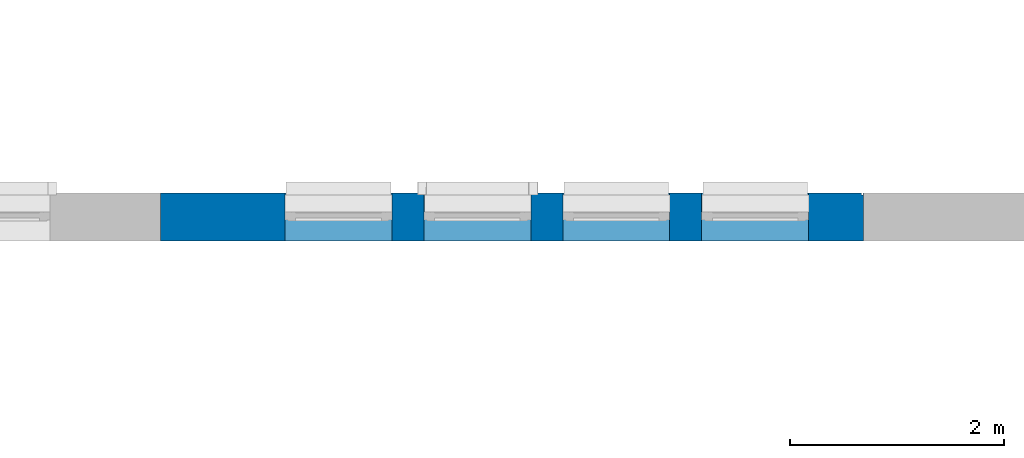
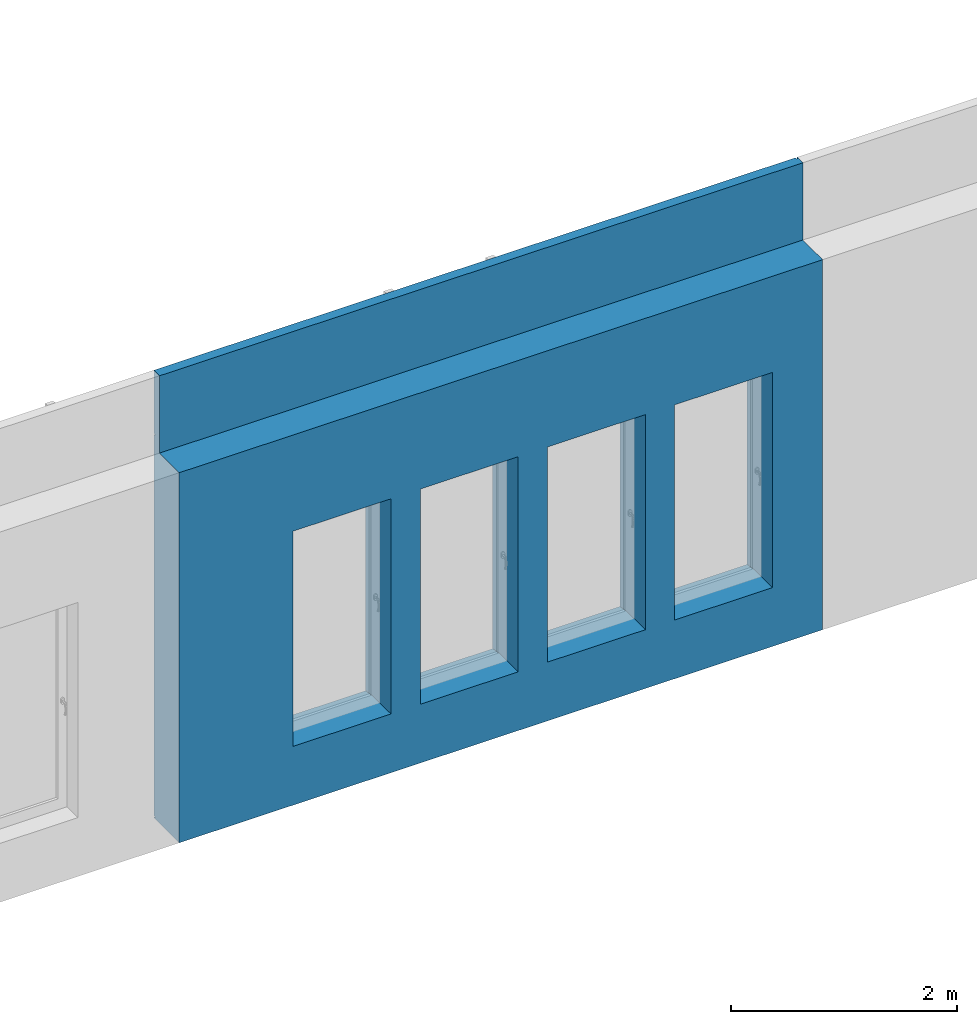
# One storey, part 24 of 33: 1 wall, 7 openings.
"""IFC2X3 building model written with IfcOpenShell, lengths in millimetres."""

from ifc_helpers import new_model, entity, si_unit, converted_unit, derived_unit, direction, frame, frame_2d, origin, origin_2d_with_axis, place, context, subcontext, project, spatial, polyline, rectangle, extrude, clip, bounded_halfspace, faceted_brep, material, layer, layer_set, layer_usage, type_object, element, save


model = new_model("IFC2X3")

# Units and contexts
model_context = context("Model", 3, precision=0.01, world=origin(), true_north=direction((6.12303176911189e-17, 1.0)))
body_context = subcontext(model_context, "Body", "Model", "MODEL_VIEW")
ifc_project = project(units=[si_unit("LENGTHUNIT", "METRE", prefix="MILLI"), si_unit("AREAUNIT", "SQUARE_METRE"), si_unit("VOLUMEUNIT", "CUBIC_METRE"), converted_unit("PLANEANGLEUNIT", "DEGREE", entity("IfcRatioMeasure", 0.0174532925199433), si_unit("PLANEANGLEUNIT", "RADIAN"), dimensions=[0, 0, 0, 0, 0, 0, 0]), si_unit("MASSUNIT", "GRAM", prefix="KILO"), derived_unit("MASSDENSITYUNIT", [(si_unit("MASSUNIT", "GRAM", prefix="KILO"), 1), (si_unit("LENGTHUNIT", "METRE"), -3)]), si_unit("TIMEUNIT", "SECOND"), si_unit("FREQUENCYUNIT", "HERTZ"), si_unit("THERMODYNAMICTEMPERATUREUNIT", "DEGREE_CELSIUS"), derived_unit("THERMALTRANSMITTANCEUNIT", [(si_unit("MASSUNIT", "GRAM", prefix="KILO"), 1), (si_unit("THERMODYNAMICTEMPERATUREUNIT", "KELVIN"), -1), (si_unit("TIMEUNIT", "SECOND"), -3)]), derived_unit("VOLUMETRICFLOWRATEUNIT", [(si_unit("LENGTHUNIT", "METRE"), 3), (si_unit("TIMEUNIT", "SECOND"), -1)]), si_unit("ELECTRICCURRENTUNIT", "AMPERE"), si_unit("ELECTRICVOLTAGEUNIT", "VOLT"), si_unit("POWERUNIT", "WATT"), si_unit("FORCEUNIT", "NEWTON", prefix="KILO"), si_unit("ILLUMINANCEUNIT", "LUX"), si_unit("LUMINOUSFLUXUNIT", "LUMEN"), si_unit("LUMINOUSINTENSITYUNIT", "CANDELA"), derived_unit("USERDEFINED", [(si_unit("MASSUNIT", "GRAM", prefix="KILO"), -1), (si_unit("LENGTHUNIT", "METRE"), -2), (si_unit("TIMEUNIT", "SECOND"), 3), (si_unit("LUMINOUSFLUXUNIT", "LUMEN"), 1)]), derived_unit("LINEARVELOCITYUNIT", [(si_unit("LENGTHUNIT", "METRE"), 1), (si_unit("TIMEUNIT", "SECOND"), -1)]), si_unit("PRESSUREUNIT", "PASCAL"), derived_unit("USERDEFINED", [(si_unit("LENGTHUNIT", "METRE"), -2), (si_unit("MASSUNIT", "GRAM", prefix="KILO"), 1), (si_unit("TIMEUNIT", "SECOND"), -2)])], contexts=[model_context])

# Site, building, storey
site_placement = place(None, origin())
site = spatial("IfcSite", under=ifc_project, at=site_placement, Name="Default", CompositionType="ELEMENT")
building_placement = place(site_placement, origin())
building = spatial("IfcBuilding", under=site, at=building_placement, CompositionType="ELEMENT")
storey_placement = place(building_placement, frame((0.0, 0.0, 4000.0)))
storey = spatial("IfcBuildingStorey", under=building, at=storey_placement, Name="2. KORRUS", CompositionType="ELEMENT", Elevation=4000.0)

# Wall, openings
ifc_material_1 = material(Name="RECKLI 1 173 THUR by Polantis 2016-toon2")
ifc_layer_1 = layer(ifc_material_1, 100.0)
ifc_material_2 = material(Name="Soojusisolatsioon EPS")
ifc_layer_2 = layer(ifc_material_2, 200.0)
ifc_material_3 = material(Name="r/b")
ifc_layer_3 = layer(ifc_material_3, 150.0)
ifc_layer_set = layer_set([ifc_layer_1, ifc_layer_2, ifc_layer_3], Name="Basic Wall:VS-1_toon-c")
ifc_layer_usage = layer_usage(ifc_layer_set, "AXIS2", "NEGATIVE", 225.0)
wall_type = type_object("IfcWallType", Name="Basic Wall:VS-1_toon-c", PredefinedType="STANDARD", material=ifc_layer_set)
wall_placement = place(storey_placement, frame((22085.0, 21725.0517807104, -135.0)))
wall = element("IfcWallStandardCase", 1, at=wall_placement, inside=storey, type_object=wall_type, material=ifc_layer_usage, Name="Basic Wall:VS-1_toon-c", ObjectType="Basic Wall:VS-1_toon-c", context=body_context, shape_type="Clipping", body=[
    clip(clip(extrude(rectangle(XDim=6578.21614873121, YDim=450.000000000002, at=frame_2d((3289.1080743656, -2.55795384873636e-13), x_axis=(-1.0, 0.0))), origin(), (0.0, 0.0, 1.0), 4835.0), bounded_halfspace(frame((0.0, -225.0, 4000.0), z_axis=(0.0, 0.0, 1.0), x_axis=(0.0, 1.0, 0.0)), False, frame((0.0, -225.0, 4000.0)), polyline([(0.0, 0.0), (6578.21614873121, 0.0), (6578.2161487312, 350.0), (0.0, 350.0), (0.0, 0.0)]))), bounded_halfspace(frame((0.0, -225.0, 4000.0), z_axis=(0.0, 0.0, 1.0), x_axis=(0.0, 1.0, 0.0)), False, frame((0.0, -225.0, 4000.0)), polyline([(0.0, 0.0), (6578.21614873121, 0.0), (6578.2161487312, 350.0), (0.0, 350.0), (0.0, 0.0)]))),
])
opening_1_placement = place(wall_placement, frame((-22535.0, -22175.0517807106, 4.0)))
element("IfcOpeningElement", 2, at=opening_1_placement, cuts=wall, Name="Basic Wall:VS-1_toon-c", ObjectType="Opening", context=body_context, shape_type="Brep", body=[
    faceted_brep([(11850.0, 20.0, 16.0), (11850.0, 0.0, 16.0), (11850.0, 0.0, 0.0), (11850.0, 20.0, 0.0), (4260.0, 20.0, 16.0), (4260.0, 20.0, 0.0), (4260.0, 0.0, 0.0), (4260.0, 0.0, 16.0)], [[[0, 1, 2, 3]], [[4, 5, 6, 7]], [[1, 0, 4, 7]], [[2, 1, 7, 6]], [[3, 2, 6, 5]], [[0, 3, 5, 4]]]),
    faceted_brep([(20.0, 28480.0, 16.0), (20.0, 28480.0, 0.0), (0.0, 28500.0, 0.0), (0.0, 28500.0, 16.0), (20.0, 23740.0, 16.0), (0.0, 23740.0, 16.0), (0.0, 23740.0, 0.0), (20.0, 23740.0, 0.0)], [[[0, 1, 2, 3]], [[4, 5, 6, 7]], [[1, 0, 4, 7]], [[2, 1, 7, 6]], [[3, 2, 6, 5]], [[0, 3, 5, 4]]]),
    faceted_brep([(10080.0, 22380.0517807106, 16.0), (10100.0, 22400.0517807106, 16.0), (10100.0, 22400.0517807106, 0.0), (10080.0, 22380.0517807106, 0.0), (15330.3475962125, 22380.0517807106, 16.0), (15330.3475962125, 22380.0517807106, 0.0), (15330.3475962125, 22400.0517807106, 0.0), (15330.3475962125, 22400.0517807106, 16.0)], [[[0, 1, 2, 3]], [[4, 5, 6, 7]], [[1, 0, 4, 7]], [[2, 1, 7, 6]], [[3, 2, 6, 5]], [[0, 3, 5, 4]]]),
    faceted_brep([(20.0, 28480.0, 16.0), (0.0, 28500.0, 16.0), (0.0, 28500.0, 0.0), (20.0, 28480.0, 0.0), (4360.0, 28480.0, 16.0), (4360.0, 28480.0, 0.0), (4360.0, 28500.0, 0.0), (4360.0, 28500.0, 16.0)], [[[0, 1, 2, 3]], [[4, 5, 6, 7]], [[1, 0, 4, 7]], [[2, 1, 7, 6]], [[3, 2, 6, 5]], [[0, 3, 5, 4]]]),
    faceted_brep([(40380.0, 20.0, 16.0), (40400.0, 0.0, 16.0), (40400.0, 0.0, 0.0), (40380.0, 20.0, 0.0), (35250.0, 20.0, 16.0), (35250.0, 20.0, 0.0), (35250.0, 0.0, 0.0), (35250.0, 0.0, 16.0)], [[[0, 1, 2, 3]], [[4, 5, 6, 7]], [[1, 0, 4, 7]], [[2, 1, 7, 6]], [[3, 2, 6, 5]], [[0, 3, 5, 4]]]),
    faceted_brep([(34420.1035702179, 22380.0517807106, 16.0), (34420.1035702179, 22400.0517807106, 16.0), (34420.1035702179, 22400.0517807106, 0.0), (34420.1035702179, 22380.0517807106, 0.0), (40380.0, 22380.0517807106, 16.0), (40380.0, 22380.0517807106, 0.0), (40400.0, 22400.0517807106, 0.0), (40400.0, 22400.0517807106, 16.0)], [[[0, 1, 2, 3]], [[4, 5, 6, 7]], [[1, 0, 4, 7]], [[2, 1, 7, 6]], [[3, 2, 6, 5]], [[0, 3, 5, 4]]]),
    faceted_brep([(29113.2161487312, 22380.0517807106, 16.0), (29113.2161487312, 22400.0517807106, 16.0), (29113.2161487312, 22400.0517807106, 0.0), (29113.2161487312, 22380.0517807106, 0.0), (34420.1035702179, 22380.0517807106, 16.0), (34420.1035702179, 22380.0517807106, 0.0), (34420.1035702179, 22400.0517807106, 0.0), (34420.1035702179, 22400.0517807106, 16.0)], [[[0, 1, 2, 3]], [[4, 5, 6, 7]], [[1, 0, 4, 7]], [[2, 1, 7, 6]], [[3, 2, 6, 5]], [[0, 3, 5, 4]]]),
    faceted_brep([(10080.0, 28480.0, 16.0), (10100.0, 28500.0, 16.0), (10100.0, 28500.0, 0.0), (10080.0, 28480.0, 0.0), (10080.0, 22380.0517807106, 16.0), (10080.0, 22380.0517807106, 0.0), (10100.0, 22400.0517807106, 0.0), (10100.0, 22400.0517807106, 16.0)], [[[0, 1, 2, 3]], [[4, 5, 6, 7]], [[1, 0, 4, 7]], [[2, 1, 7, 6]], [[3, 2, 6, 5]], [[0, 3, 5, 4]]]),
    faceted_brep([(4260.0, 20.0, 16.0), (4260.0, 0.0, 16.0), (4260.0, 0.0, 0.0), (4260.0, 20.0, 0.0), (0.0, 20.0, 16.0), (0.0, 20.0, 0.0), (0.0, 0.0, 0.0), (0.0, 0.0, 16.0)], [[[0, 1, 2, 3]], [[4, 5, 6, 7]], [[1, 0, 4, 7]], [[2, 1, 7, 6]], [[3, 2, 6, 5]], [[0, 3, 5, 4]]]),
    faceted_brep([(40380.0, 4865.0, 16.0), (40400.0, 4865.0, 16.0), (40400.0, 4865.0, 0.0), (40380.0, 4865.0, 0.0), (40380.0, 20.0, 16.0), (40380.0, 20.0, 0.0), (40400.0, 0.0, 0.0), (40400.0, 0.0, 16.0)], [[[0, 1, 2, 3]], [[4, 5, 6, 7]], [[1, 0, 4, 7]], [[2, 1, 7, 6]], [[3, 2, 6, 5]], [[0, 3, 5, 4]]]),
    faceted_brep([(40380.0, 9093.33000000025, 16.0), (40400.0, 9093.33000000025, 16.0), (40400.0, 9093.33000000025, 0.0), (40380.0, 9093.33000000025, 0.0), (40380.0, 4865.0, 16.0), (40380.0, 4865.0, 0.0), (40400.0, 4865.0, 0.0), (40400.0, 4865.0, 16.0)], [[[0, 1, 2, 3]], [[4, 5, 6, 7]], [[1, 0, 4, 7]], [[2, 1, 7, 6]], [[3, 2, 6, 5]], [[0, 3, 5, 4]]]),
    faceted_brep([(40380.0, 13210.0, 16.0), (40400.0, 13210.0, 16.0), (40400.0, 13210.0, 0.0), (40380.0, 13210.0, 0.0), (40380.0, 9093.33000000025, 16.0), (40380.0, 9093.33000000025, 0.0), (40400.0, 9093.33000000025, 0.0), (40400.0, 9093.33000000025, 16.0)], [[[0, 1, 2, 3]], [[4, 5, 6, 7]], [[1, 0, 4, 7]], [[2, 1, 7, 6]], [[3, 2, 6, 5]], [[0, 3, 5, 4]]]),
    faceted_brep([(40380.0, 16240.0, 16.0), (40400.0, 16240.0, 16.0), (40400.0, 16240.0, 0.0), (40380.0, 16240.0, 0.0), (40380.0, 13210.0, 16.0), (40380.0, 13210.0, 0.0), (40400.0, 13210.0, 0.0), (40400.0, 13210.0, 16.0)], [[[0, 1, 2, 3]], [[4, 5, 6, 7]], [[1, 0, 4, 7]], [[2, 1, 7, 6]], [[3, 2, 6, 5]], [[0, 3, 5, 4]]]),
    faceted_brep([(40380.0, 22380.0517807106, 16.0), (40400.0, 22400.0517807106, 16.0), (40400.0, 22400.0517807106, 0.0), (40380.0, 22380.0517807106, 0.0), (40380.0, 16240.0, 16.0), (40380.0, 16240.0, 0.0), (40400.0, 16240.0, 0.0), (40400.0, 16240.0, 16.0)], [[[0, 1, 2, 3]], [[4, 5, 6, 7]], [[1, 0, 4, 7]], [[2, 1, 7, 6]], [[3, 2, 6, 5]], [[0, 3, 5, 4]]]),
    faceted_brep([(22535.0, 22380.0517807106, 16.0), (22535.0, 22400.0517807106, 16.0), (22535.0, 22400.0517807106, 0.0), (22535.0, 22380.0517807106, 0.0), (29113.2161487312, 22380.0517807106, 16.0), (29113.2161487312, 22380.0517807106, 0.0), (29113.2161487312, 22400.0517807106, 0.0), (29113.2161487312, 22400.0517807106, 16.0)], [[[0, 1, 2, 3]], [[4, 5, 6, 7]], [[1, 0, 4, 7]], [[2, 1, 7, 6]], [[3, 2, 6, 5]], [[0, 3, 5, 4]]]),
    faceted_brep([(18703.3528910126, 22380.0517807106, 16.0), (18703.3528910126, 22400.0517807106, 16.0), (18703.3528910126, 22400.0517807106, 0.0), (18703.3528910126, 22380.0517807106, 0.0), (22535.0, 22380.0517807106, 16.0), (22535.0, 22380.0517807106, 0.0), (22535.0, 22400.0517807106, 0.0), (22535.0, 22400.0517807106, 16.0)], [[[0, 1, 2, 3]], [[4, 5, 6, 7]], [[1, 0, 4, 7]], [[2, 1, 7, 6]], [[3, 2, 6, 5]], [[0, 3, 5, 4]]]),
    faceted_brep([(15330.3475962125, 22380.0517807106, 16.0), (15330.3475962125, 22400.0517807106, 16.0), (15330.3475962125, 22400.0517807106, 0.0), (15330.3475962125, 22380.0517807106, 0.0), (18703.3528910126, 22380.0517807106, 16.0), (18703.3528910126, 22380.0517807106, 0.0), (18703.3528910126, 22400.0517807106, 0.0), (18703.3528910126, 22400.0517807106, 16.0)], [[[0, 1, 2, 3]], [[4, 5, 6, 7]], [[1, 0, 4, 7]], [[2, 1, 7, 6]], [[3, 2, 6, 5]], [[0, 3, 5, 4]]]),
    faceted_brep([(4360.0, 28480.0, 16.0), (4360.0, 28500.0, 16.0), (4360.0, 28500.0, 0.0), (4360.0, 28480.0, 0.0), (10080.0, 28480.0, 16.0), (10080.0, 28480.0, 0.0), (10100.0, 28500.0, 0.0), (10100.0, 28500.0, 16.0)], [[[0, 1, 2, 3]], [[4, 5, 6, 7]], [[1, 0, 4, 7]], [[2, 1, 7, 6]], [[3, 2, 6, 5]], [[0, 3, 5, 4]]]),
    faceted_brep([(20.0, 23740.0, 16.0), (20.0, 23740.0, 0.0), (0.0, 23740.0, 0.0), (0.0, 23740.0, 16.0), (20.0, 16890.0006972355, 16.0), (0.0, 16890.0006972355, 16.0), (0.0, 16890.0006972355, 0.0), (20.0, 16890.0006972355, 0.0)], [[[0, 1, 2, 3]], [[4, 5, 6, 7]], [[1, 0, 4, 7]], [[2, 1, 7, 6]], [[3, 2, 6, 5]], [[0, 3, 5, 4]]]),
    faceted_brep([(20.0, 16890.0006972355, 16.0), (20.0, 16890.0006972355, 0.0), (0.0, 16890.0006972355, 0.0), (0.0, 16890.0006972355, 16.0), (20.0, 13460.0, 16.0), (0.0, 13460.0, 16.0), (0.0, 13460.0, 0.0), (20.0, 13460.0, 0.0)], [[[0, 1, 2, 3]], [[4, 5, 6, 7]], [[1, 0, 4, 7]], [[2, 1, 7, 6]], [[3, 2, 6, 5]], [[0, 3, 5, 4]]]),
])
opening_2_placement = place(wall_placement, origin())
element("IfcOpeningElement", 3, at=opening_2_placement, cuts=wall, Name="Basic Wall:VS-1_toon-c", ObjectType="Recess", context=body_context, shape_type="SweptSolid", body=[
    extrude(rectangle(XDim=4265.0, YDim=16.0000000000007, at=origin_2d_with_axis()), frame((6566.04946999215, 205.0, -2132.5), z_axis=(0.0, 1.0, 0.0), x_axis=(0.0, 0.0, 1.0)), (0.0, 0.0, 1.0), 19.9999999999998),
    extrude(rectangle(XDim=4835.0, YDim=16.0000000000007, at=frame_2d((-4.54747350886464e-13, 0.0), x_axis=(1.0, 0.0))), frame((6566.04946999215, 205.0, 2417.5), z_axis=(0.0, 1.0, 0.0), x_axis=(0.0, 0.0, 1.0)), (0.0, 0.0, 1.0), 19.9999999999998),
])
opening_3_placement = place(wall_placement, origin())
element("IfcOpeningElement", 4, at=opening_3_placement, cuts=wall, Name="Basic Wall:VS-1_toon-c", ObjectType="Opening", context=body_context, shape_type="SweptSolid", body=[
    extrude(rectangle(XDim=15.9999999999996, YDim=7590.0, at=frame_2d((0.0, -5.40900657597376e-13), x_axis=(0.0, 1.0))), frame((-14480.0, -22175.0517807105, 4147.0), z_axis=(0.0, 1.0, 0.0), x_axis=(-1.0, 0.0, 0.0)), (0.0, 0.0, 1.0), 20.0),
    extrude(rectangle(XDim=15.9999999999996, YDim=20.0, at=frame_2d((5.40900657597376e-13, -3.37507799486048e-14), x_axis=(1.0, 0.0))), frame((-22525.0, 1564.94821928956, 4147.0), z_axis=(0.0, 1.0, 0.0), x_axis=(0.0, 0.0, -1.0)), (0.0, 0.0, 1.0), 4660.0),
    extrude(rectangle(XDim=15.9999999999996, YDim=5230.3475962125, at=frame_2d((0.0, 5.40900657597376e-13), x_axis=(0.0, 1.0))), frame((-9819.82620189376, 205.0, 4147.0), z_axis=(0.0, 1.0, 0.0), x_axis=(1.0, 0.0, 0.0)), (0.0, 0.0, 1.0), 19.9999999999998),
    extrude(rectangle(XDim=15.9999999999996, YDim=4360.0, at=frame_2d((0.0, 5.40900657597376e-13), x_axis=(0.0, 1.0))), frame((-20355.0, 6304.94821928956, 4147.0), z_axis=(0.0, 1.0, 0.0), x_axis=(1.0, 0.0, 0.0)), (0.0, 0.0, 1.0), 19.9999999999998),
    extrude(rectangle(XDim=15.9999999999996, YDim=5050.0, at=frame_2d((2.27373675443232e-12, 0.0), x_axis=(0.0, 1.0))), frame((15240.0, -22175.0517807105, 4147.0), z_axis=(0.0, 1.0, 0.0), x_axis=(-1.0, 0.0, 0.0)), (0.0, 0.0, 1.0), 20.0),
    extrude(rectangle(XDim=15.9999999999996, YDim=5979.89642978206, at=frame_2d((-2.27373675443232e-12, 0.0), x_axis=(0.0, 1.0))), frame((14875.051785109, 205.0, 4147.0), z_axis=(0.0, 1.0, 0.0), x_axis=(1.0, 0.0, 0.0)), (0.0, 0.0, 1.0), 19.9999999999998),
    extrude(rectangle(XDim=15.9999999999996, YDim=5306.88742148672, at=frame_2d((2.04636307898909e-12, 5.40900657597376e-13), x_axis=(0.0, 1.0))), frame((9231.65985947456, 205.0, 4147.0), z_axis=(0.0, 1.0, 0.0), x_axis=(1.0, 0.0, 0.0)), (0.0, 0.0, 1.0), 19.9999999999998),
    extrude(rectangle(XDim=15.9999999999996, YDim=19.9999999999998, at=frame_2d((0.0, 5.40900657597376e-13), x_axis=(0.0, 1.0))), frame((-12445.0, 125.0, 4147.0), z_axis=(0.0, 1.0, 0.0), x_axis=(1.0, 0.0, 0.0)), (0.0, 0.0, 1.0), 6099.94821928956),
    extrude(rectangle(XDim=15.9999999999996, YDim=4160.00000000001, at=frame_2d((0.0, -5.40900657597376e-13), x_axis=(0.0, 1.0))), frame((-20355.0, -22175.0517807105, 4147.0), z_axis=(0.0, 1.0, 0.0), x_axis=(-1.0, 0.0, 0.0)), (0.0, 0.0, 1.0), 20.0),
    extrude(rectangle(XDim=15.9999999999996, YDim=20.0000000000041, at=frame_2d((4.33164615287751e-12, 5.40900657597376e-13), x_axis=(0.0, 1.0))), frame((17855.0, -22175.0517807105, 4147.0), z_axis=(0.0, 1.0, 0.0), x_axis=(1.0, 0.0, 0.0)), (0.0, 0.0, 1.0), 4865.0),
    extrude(rectangle(XDim=15.9999999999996, YDim=20.0000000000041, at=frame_2d((-4.33164615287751e-12, -5.40900657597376e-13), x_axis=(0.0, 1.0))), frame((17855.0, -17310.0517807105, 4147.0), z_axis=(0.0, 1.0, 0.0), x_axis=(1.0, 0.0, 0.0)), (0.0, 0.0, 1.0), 4228.33000000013),
    extrude(rectangle(XDim=15.9999999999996, YDim=20.0000000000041, at=frame_2d((-4.33164615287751e-12, -5.40900657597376e-13), x_axis=(0.0, 1.0))), frame((17855.0, -13081.7217807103, 4147.0), z_axis=(0.0, 1.0, 0.0), x_axis=(1.0, 0.0, 0.0)), (0.0, 0.0, 1.0), 4236.66999997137),
    extrude(rectangle(XDim=15.9999999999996, YDim=20.0000000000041, at=frame_2d((4.33164615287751e-12, 5.40900657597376e-13), x_axis=(0.0, 1.0))), frame((17855.0, -8845.05178073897, 4147.0), z_axis=(0.0, 1.0, 0.0), x_axis=(1.0, 0.0, 0.0)), (0.0, 0.0, 1.0), 2910.00000002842),
    extrude(rectangle(XDim=15.9999999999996, YDim=20.0000000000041, at=frame_2d((-4.33164615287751e-12, 5.40900657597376e-13), x_axis=(0.0, 1.0))), frame((17855.0, -5935.05178071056, 4147.0), z_axis=(0.0, 1.0, 0.0), x_axis=(1.0, 0.0, 0.0)), (0.0, 0.0, 1.0), 6060.05178071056),
    extrude(rectangle(XDim=15.9999999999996, YDim=3831.64710898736, at=frame_2d((1.13686837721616e-12, 5.40900657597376e-13), x_axis=(0.0, 1.0))), frame((-1915.82355449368, 205.0, 4147.0), z_axis=(0.0, 1.0, 0.0), x_axis=(1.0, 0.0, 0.0)), (0.0, 0.0, 1.0), 19.9999999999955),
    extrude(rectangle(XDim=15.9999999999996, YDim=3373.00529480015, at=frame_2d((0.0, 5.40900657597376e-13), x_axis=(0.0, 1.0))), frame((-5518.14975638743, 205.0, 4147.0), z_axis=(0.0, 1.0, 0.0), x_axis=(1.0, 0.0, 0.0)), (0.0, 0.0, 1.0), 19.9999999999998),
    extrude(rectangle(XDim=15.9999999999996, YDim=5739.99999999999, at=frame_2d((-2.27373675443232e-13, 5.40900657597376e-13), x_axis=(0.0, 1.0))), frame((-15305.0, 6304.94821928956, 4147.0), z_axis=(0.0, 1.0, 0.0), x_axis=(1.0, 0.0, 0.0)), (0.0, 0.0, 1.0), 19.9999999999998),
    extrude(rectangle(XDim=15.9999999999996, YDim=20.0, at=frame_2d((5.40900657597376e-13, -3.37507799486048e-14), x_axis=(1.0, 0.0))), frame((-22525.0, -5285.05108347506, 4147.0), z_axis=(0.0, 1.0, 0.0), x_axis=(0.0, 0.0, -1.0)), (0.0, 0.0, 1.0), 6849.99930276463),
    extrude(rectangle(XDim=15.9999999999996, YDim=20.0, at=frame_2d((5.40900657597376e-13, 3.37507799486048e-14), x_axis=(1.0, 0.0))), frame((-22525.0, -8715.05178073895, 4147.0), z_axis=(0.0, 1.0, 0.0), x_axis=(0.0, 0.0, -1.0)), (0.0, 0.0, 1.0), 3430.00069726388),
    extrude(rectangle(XDim=15.9999999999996, YDim=6578.21614873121, at=frame_2d((0.0, 5.40900657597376e-13), x_axis=(0.0, 1.0))), frame((3289.1080743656, 205.0, 4147.0), z_axis=(0.0, 1.0, 0.0), x_axis=(1.0, 0.0, 0.0)), (0.0, 0.0, 1.0), 19.9999999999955),
    extrude(rectangle(XDim=15.9999999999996, YDim=4110.0, at=frame_2d((1.13686837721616e-12, -5.40900657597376e-13), x_axis=(0.0, 1.0))), frame((-8630.0, -22175.0517807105, 4147.0), z_axis=(0.0, 1.0, 0.0), x_axis=(-1.0, 0.0, 0.0)), (0.0, 0.0, 1.0), 19.9999999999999),
    extrude(rectangle(XDim=15.9999999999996, YDim=4600.0, at=frame_2d((-2.27373675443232e-12, -5.40900657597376e-13), x_axis=(0.0, 1.0))), frame((-4275.0, -22175.0517807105, 4147.0), z_axis=(0.0, 1.0, 0.0), x_axis=(-1.0, 0.0, 0.0)), (0.0, 0.0, 1.0), 20.0),
    extrude(rectangle(XDim=15.9999999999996, YDim=4600.0, at=frame_2d((2.27373675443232e-12, -5.40900657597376e-13), x_axis=(0.0, 1.0))), frame((325.0, -22175.0517807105, 4147.0), z_axis=(0.0, 1.0, 0.0), x_axis=(-1.0, 0.0, 0.0)), (0.0, 0.0, 1.0), 20.0),
    extrude(rectangle(XDim=15.9999999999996, YDim=5299.99999999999, at=frame_2d((-2.04636307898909e-12, -5.40900657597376e-13), x_axis=(0.0, 1.0))), frame((5275.0, -22175.0517807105, 4147.0), z_axis=(0.0, 1.0, 0.0), x_axis=(-1.0, 0.0, 0.0)), (0.0, 0.0, 1.0), 20.0),
    extrude(rectangle(XDim=15.9999999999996, YDim=4790.0, at=frame_2d((0.0, -5.40900657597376e-13), x_axis=(0.0, 1.0))), frame((10320.0, -22175.0517807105, 4147.0), z_axis=(0.0, 1.0, 0.0), x_axis=(-1.0, 0.0, 0.0)), (0.0, 0.0, 1.0), 20.0000000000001),
    extrude(rectangle(XDim=15.9999999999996, YDim=20.0, at=frame_2d((5.40900657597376e-13, -3.37507799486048e-14), x_axis=(1.0, 0.0))), frame((-22525.0, -13439.9109855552, 4147.0), z_axis=(0.0, 1.0, 0.0), x_axis=(0.0, 0.0, -1.0)), (0.0, 0.0, 1.0), 4724.85920481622),
    extrude(rectangle(XDim=15.9999999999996, YDim=20.0, at=frame_2d((5.40900657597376e-13, -3.37507799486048e-14), x_axis=(1.0, 0.0))), frame((-22525.0, -22175.0517807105, 4147.0), z_axis=(0.0, 1.0, 0.0), x_axis=(0.0, 0.0, -1.0)), (0.0, 0.0, 1.0), 8735.1407951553),
])
opening_4_placement = place(wall_placement, frame((2465.0, -225.0, 613.057009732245)))
element("IfcOpeningElement", 5, at=opening_4_placement, cuts=wall, Name="Basic Wall:VS-1_toon-c", ObjectType="Opening", context=body_context, shape_type="Brep", body=[
    faceted_brep([(1000.0, 0.0, 2346.94299026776), (1000.0, 250.0, 2346.94299026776), (0.0, 250.0, 2346.94299026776), (0.0, 0.0, 2346.94299026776), (1000.0, 0.0, 21.9429902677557), (1000.0, 325.555118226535, 21.9429902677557), (1000.0, 450.0, 0.0), (1000.0, 450.0, 2721.94299026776), (1000.0, 250.0, 2721.94299026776), (0.0, 0.0, 21.9429902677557), (0.0, 450.0, 0.0), (0.0, 450.0, 2721.94299026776), (0.0, 250.0, 2721.94299026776), (0.0, 325.555118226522, 21.9429902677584)], [[[0, 1, 2, 3]], [[4, 5, 6, 7, 8, 1, 0]], [[3, 9, 4, 0]], [[7, 6, 10, 11]], [[3, 2, 12, 11, 10, 13, 9]], [[9, 13, 5, 4]], [[12, 2, 1, 8]], [[8, 7, 11, 12]], [[10, 6, 5, 13]]]),
])
opening_5_placement = place(wall_placement, frame((1165.0, -225.0, 613.057009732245)))
element("IfcOpeningElement", 6, at=opening_5_placement, cuts=wall, Name="Basic Wall:VS-1_toon-c", ObjectType="Opening", context=body_context, shape_type="Brep", body=[
    faceted_brep([(1000.0, 0.0, 2346.94299026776), (1000.0, 250.0, 2346.94299026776), (0.0, 250.0, 2346.94299026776), (0.0, 0.0, 2346.94299026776), (1000.0, 0.0, 21.9429902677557), (1000.0, 325.555118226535, 21.9429902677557), (1000.0, 450.0, 0.0), (1000.0, 450.0, 2721.94299026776), (1000.0, 250.0, 2721.94299026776), (0.0, 0.0, 21.9429902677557), (0.0, 450.0, 0.0), (0.0, 450.0, 2721.94299026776), (0.0, 250.0, 2721.94299026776), (0.0, 325.555118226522, 21.9429902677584)], [[[0, 1, 2, 3]], [[4, 5, 6, 7, 8, 1, 0]], [[3, 9, 4, 0]], [[7, 6, 10, 11]], [[3, 2, 12, 11, 10, 13, 9]], [[9, 13, 5, 4]], [[12, 2, 1, 8]], [[8, 7, 11, 12]], [[10, 6, 5, 13]]]),
])
opening_6_placement = place(wall_placement, frame((3765.0, -225.0, 613.057009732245)))
element("IfcOpeningElement", 7, at=opening_6_placement, cuts=wall, Name="Basic Wall:VS-1_toon-c", ObjectType="Opening", context=body_context, shape_type="Brep", body=[
    faceted_brep([(1000.0, 0.0, 2346.94299026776), (1000.0, 250.0, 2346.94299026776), (0.0, 250.0, 2346.94299026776), (0.0, 0.0, 2346.94299026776), (1000.0, 0.0, 21.9429902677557), (1000.0, 325.555118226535, 21.9429902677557), (1000.0, 450.0, 0.0), (1000.0, 450.0, 2721.94299026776), (1000.0, 250.0, 2721.94299026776), (0.0, 0.0, 21.9429902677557), (0.0, 450.0, 0.0), (0.0, 450.0, 2721.94299026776), (0.0, 250.0, 2721.94299026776), (0.0, 325.555118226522, 21.9429902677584)], [[[0, 1, 2, 3]], [[4, 5, 6, 7, 8, 1, 0]], [[3, 9, 4, 0]], [[7, 6, 10, 11]], [[3, 2, 12, 11, 10, 13, 9]], [[9, 13, 5, 4]], [[12, 2, 1, 8]], [[8, 7, 11, 12]], [[10, 6, 5, 13]]]),
])
opening_7_placement = place(wall_placement, frame((5065.0, -225.0, 613.057009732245)))
element("IfcOpeningElement", 8, at=opening_7_placement, cuts=wall, Name="Basic Wall:VS-1_toon-c", ObjectType="Opening", context=body_context, shape_type="Brep", body=[
    faceted_brep([(1000.0, 0.0, 2346.94299026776), (1000.0, 250.0, 2346.94299026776), (0.0, 250.0, 2346.94299026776), (0.0, 0.0, 2346.94299026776), (1000.0, 0.0, 21.9429902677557), (1000.0, 325.555118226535, 21.9429902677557), (1000.0, 450.0, 0.0), (1000.0, 450.0, 2721.94299026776), (1000.0, 250.0, 2721.94299026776), (0.0, 0.0, 21.9429902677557), (0.0, 450.0, 0.0), (0.0, 450.0, 2721.94299026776), (0.0, 250.0, 2721.94299026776), (0.0, 325.555118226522, 21.9429902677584)], [[[0, 1, 2, 3]], [[4, 5, 6, 7, 8, 1, 0]], [[3, 9, 4, 0]], [[7, 6, 10, 11]], [[3, 2, 12, 11, 10, 13, 9]], [[9, 13, 5, 4]], [[12, 2, 1, 8]], [[8, 7, 11, 12]], [[10, 6, 5, 13]]]),
])

save(model, "model.ifc")
